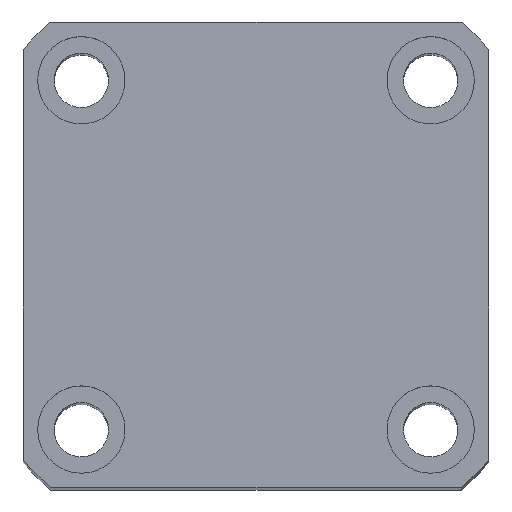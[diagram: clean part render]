
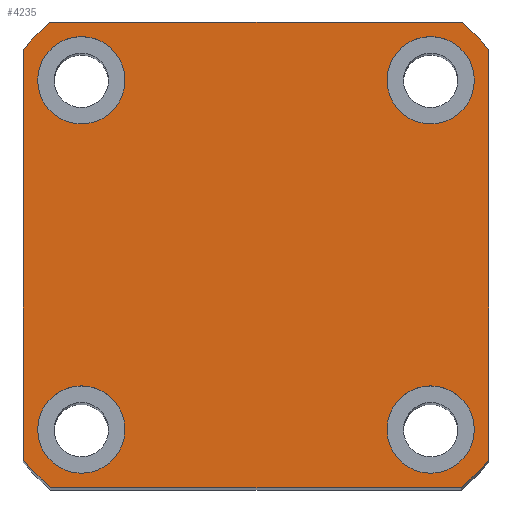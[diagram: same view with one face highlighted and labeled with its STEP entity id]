
A CAD part, top view. The second image highlights one B-rep face of the part: STEP entity #4235.
In plain terms, the highlighted planar face has unit normal (0, 0, 1) as drawn and (1, 0, 0) by its records, which use the part's own axes.
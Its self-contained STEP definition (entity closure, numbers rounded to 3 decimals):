
#13 = VERTEX_POINT ( 'NONE', #486 ) ;
#80 = AXIS2_PLACEMENT_3D ( 'NONE', #7430, #7750, #7776 ) ;
#116 = CARTESIAN_POINT ( 'NONE',  ( 130., 18., -22.5 ) ) ;
#141 = CARTESIAN_POINT ( 'NONE',  ( 130., 0., 0. ) ) ;
#307 = AXIS2_PLACEMENT_3D ( 'NONE', #1710, #6068, #2345 ) ;
#329 = CARTESIAN_POINT ( 'NONE',  ( 130., 21.166, 24. ) ) ;
#394 = VECTOR ( 'NONE', #2709, 1000. ) ;
#486 = CARTESIAN_POINT ( 'NONE',  ( 130., 24., 21.166 ) ) ;
#490 = CARTESIAN_POINT ( 'NONE',  ( 130., -21.166, -24. ) ) ;
#505 = CARTESIAN_POINT ( 'NONE',  ( 130., -18., -22.5 ) ) ;
#529 = VERTEX_POINT ( 'NONE', #116 ) ;
#601 = EDGE_LOOP ( 'NONE', ( #7076, #5218 ) ) ;
#616 = CARTESIAN_POINT ( 'NONE',  ( 130., 24., -21.166 ) ) ;
#813 = VERTEX_POINT ( 'NONE', #616 ) ;
#825 = CARTESIAN_POINT ( 'NONE',  ( 130., 24., 24. ) ) ;
#897 = EDGE_LOOP ( 'NONE', ( #1696, #1113, #2581, #7155, #3446, #4906, #3273, #6379 ) ) ;
#1069 = AXIS2_PLACEMENT_3D ( 'NONE', #1990, #7160, #6852 ) ;
#1113 = ORIENTED_EDGE ( 'NONE', *, *, #5377, .T. ) ;
#1307 = CARTESIAN_POINT ( 'NONE',  ( 130., 0., 0. ) ) ;
#1312 = VERTEX_POINT ( 'NONE', #3762 ) ;
#1334 = DIRECTION ( 'NONE',  ( 1., 0., 0. ) ) ;
#1357 = CIRCLE ( 'NONE', #307, 32. ) ;
#1399 = DIRECTION ( 'NONE',  ( 1., 0., 0. ) ) ;
#1424 = ORIENTED_EDGE ( 'NONE', *, *, #1624, .F. ) ;
#1605 = VERTEX_POINT ( 'NONE', #5624 ) ;
#1624 = EDGE_CURVE ( 'NONE', #3964, #4545, #1638, .T. ) ;
#1638 = CIRCLE ( 'NONE', #1069, 4.5 ) ;
#1696 = ORIENTED_EDGE ( 'NONE', *, *, #6947, .T. ) ;
#1710 = CARTESIAN_POINT ( 'NONE',  ( 130., 0., 0. ) ) ;
#1868 = EDGE_CURVE ( 'NONE', #5022, #529, #2316, .T. ) ;
#1929 = DIRECTION ( 'NONE',  ( 0., 0., -1. ) ) ;
#1990 = CARTESIAN_POINT ( 'NONE',  ( 130., -18., 18. ) ) ;
#2038 = EDGE_CURVE ( 'NONE', #3737, #2979, #6908, .T. ) ;
#2067 = LINE ( 'NONE', #825, #394 ) ;
#2081 = CARTESIAN_POINT ( 'NONE',  ( 130., -18., -13.5 ) ) ;
#2134 = CIRCLE ( 'NONE', #3378, 32. ) ;
#2195 = ORIENTED_EDGE ( 'NONE', *, *, #8023, .F. ) ;
#2316 = CIRCLE ( 'NONE', #5249, 4.5 ) ;
#2345 = DIRECTION ( 'NONE',  ( 0., 0., -1. ) ) ;
#2395 = EDGE_CURVE ( 'NONE', #4545, #3964, #4050, .T. ) ;
#2510 = EDGE_CURVE ( 'NONE', #5951, #4496, #3410, .T. ) ;
#2581 = ORIENTED_EDGE ( 'NONE', *, *, #4004, .T. ) ;
#2587 = CARTESIAN_POINT ( 'NONE',  ( 130., -24., -21.166 ) ) ;
#2621 = DIRECTION ( 'NONE',  ( 1., 0., 0. ) ) ;
#2691 = ORIENTED_EDGE ( 'NONE', *, *, #4550, .F. ) ;
#2709 = DIRECTION ( 'NONE',  ( 0., -1., 0. ) ) ;
#2963 = AXIS2_PLACEMENT_3D ( 'NONE', #6694, #6949, #6919 ) ;
#2979 = VERTEX_POINT ( 'NONE', #4969 ) ;
#3134 = CARTESIAN_POINT ( 'NONE',  ( 130., -24., 21.166 ) ) ;
#3158 = DIRECTION ( 'NONE',  ( 1., 0., 0. ) ) ;
#3192 = AXIS2_PLACEMENT_3D ( 'NONE', #1307, #5663, #1929 ) ;
#3203 = CARTESIAN_POINT ( 'NONE',  ( 130., 0., 0. ) ) ;
#3217 = VECTOR ( 'NONE', #4533, 1000. ) ;
#3273 = ORIENTED_EDGE ( 'NONE', *, *, #4263, .T. ) ;
#3301 = EDGE_CURVE ( 'NONE', #1605, #6587, #4078, .T. ) ;
#3378 = AXIS2_PLACEMENT_3D ( 'NONE', #3203, #7558, #3822 ) ;
#3410 = CIRCLE ( 'NONE', #5506, 4.5 ) ;
#3417 = AXIS2_PLACEMENT_3D ( 'NONE', #5220, #5170, #5115 ) ;
#3445 = DIRECTION ( 'NONE',  ( 0., 0., -1. ) ) ;
#3446 = ORIENTED_EDGE ( 'NONE', *, *, #5952, .T. ) ;
#3469 = DIRECTION ( 'NONE',  ( 1., 0., 0. ) ) ;
#3541 = VERTEX_POINT ( 'NONE', #329 ) ;
#3584 = CARTESIAN_POINT ( 'NONE',  ( 130., 18., 13.5 ) ) ;
#3607 = CARTESIAN_POINT ( 'NONE',  ( 130., -18., -18. ) ) ;
#3726 = CARTESIAN_POINT ( 'NONE',  ( 130., -18., 22.5 ) ) ;
#3737 = VERTEX_POINT ( 'NONE', #3584 ) ;
#3762 = CARTESIAN_POINT ( 'NONE',  ( 130., 21.166, -24. ) ) ;
#3822 = DIRECTION ( 'NONE',  ( 0., 0., -1. ) ) ;
#3888 = CIRCLE ( 'NONE', #5991, 4.5 ) ;
#3896 = CARTESIAN_POINT ( 'NONE',  ( 130., -24., 24. ) ) ;
#3964 = VERTEX_POINT ( 'NONE', #6900 ) ;
#3968 = DIRECTION ( 'NONE',  ( 0., 1., 0. ) ) ;
#4004 = EDGE_CURVE ( 'NONE', #813, #13, #6036, .T. ) ;
#4050 = CIRCLE ( 'NONE', #3417, 4.5 ) ;
#4078 = CIRCLE ( 'NONE', #2963, 32. ) ;
#4235 = ADVANCED_FACE ( 'NONE', ( #4850, #6518, #5256, #5064, #6716 ), #5132, .T. ) ;
#4263 = EDGE_CURVE ( 'NONE', #6587, #6530, #6325, .T. ) ;
#4315 = EDGE_LOOP ( 'NONE', ( #2691, #7255 ) ) ;
#4392 = AXIS2_PLACEMENT_3D ( 'NONE', #5059, #1334, #5683 ) ;
#4444 = DIRECTION ( 'NONE',  ( 0., 0., 1. ) ) ;
#4496 = VERTEX_POINT ( 'NONE', #505 ) ;
#4533 = DIRECTION ( 'NONE',  ( 0., 0., -1. ) ) ;
#4545 = VERTEX_POINT ( 'NONE', #3726 ) ;
#4550 = EDGE_CURVE ( 'NONE', #529, #5022, #3888, .T. ) ;
#4572 = CARTESIAN_POINT ( 'NONE',  ( 130., 24., -24. ) ) ;
#4619 = CIRCLE ( 'NONE', #3192, 32. ) ;
#4646 = AXIS2_PLACEMENT_3D ( 'NONE', #6894, #3158, #7515 ) ;
#4667 = CIRCLE ( 'NONE', #4392, 4.5 ) ;
#4793 = EDGE_LOOP ( 'NONE', ( #2195, #6579 ) ) ;
#4850 = FACE_BOUND ( 'NONE', #4793, .T. ) ;
#4859 = LINE ( 'NONE', #4572, #6333 ) ;
#4906 = ORIENTED_EDGE ( 'NONE', *, *, #3301, .T. ) ;
#4952 = EDGE_CURVE ( 'NONE', #13, #3541, #2134, .T. ) ;
#4969 = CARTESIAN_POINT ( 'NONE',  ( 130., 18., 22.5 ) ) ;
#4991 = DIRECTION ( 'NONE',  ( 0., 0., -1. ) ) ;
#5017 = DIRECTION ( 'NONE',  ( 1., 0., 0. ) ) ;
#5022 = VERTEX_POINT ( 'NONE', #7717 ) ;
#5059 = CARTESIAN_POINT ( 'NONE',  ( 130., 18., 18. ) ) ;
#5064 = FACE_BOUND ( 'NONE', #601, .T. ) ;
#5115 = DIRECTION ( 'NONE',  ( 0., 0., -1. ) ) ;
#5132 = PLANE ( 'NONE',  #6994 ) ;
#5170 = DIRECTION ( 'NONE',  ( 1., 0., 0. ) ) ;
#5218 = ORIENTED_EDGE ( 'NONE', *, *, #7560, .F. ) ;
#5220 = CARTESIAN_POINT ( 'NONE',  ( 130., -18., 18. ) ) ;
#5249 = AXIS2_PLACEMENT_3D ( 'NONE', #5373, #5017, #4991 ) ;
#5256 = FACE_BOUND ( 'NONE', #4315, .T. ) ;
#5373 = CARTESIAN_POINT ( 'NONE',  ( 130., 18., -18. ) ) ;
#5377 = EDGE_CURVE ( 'NONE', #1312, #813, #1357, .T. ) ;
#5506 = AXIS2_PLACEMENT_3D ( 'NONE', #3607, #3469, #3445 ) ;
#5624 = CARTESIAN_POINT ( 'NONE',  ( 130., -21.166, 24. ) ) ;
#5655 = VECTOR ( 'NONE', #4444, 1000. ) ;
#5663 = DIRECTION ( 'NONE',  ( 1., 0., 0. ) ) ;
#5683 = DIRECTION ( 'NONE',  ( 0., 0., -1. ) ) ;
#5753 = DIRECTION ( 'NONE',  ( 0., 0., -1. ) ) ;
#5754 = EDGE_LOOP ( 'NONE', ( #1424, #7835 ) ) ;
#5951 = VERTEX_POINT ( 'NONE', #2081 ) ;
#5952 = EDGE_CURVE ( 'NONE', #3541, #1605, #2067, .T. ) ;
#5991 = AXIS2_PLACEMENT_3D ( 'NONE', #6233, #2621, #6986 ) ;
#6036 = LINE ( 'NONE', #7546, #5655 ) ;
#6068 = DIRECTION ( 'NONE',  ( 1., 0., 0. ) ) ;
#6233 = CARTESIAN_POINT ( 'NONE',  ( 130., 18., -18. ) ) ;
#6325 = LINE ( 'NONE', #3896, #3217 ) ;
#6333 = VECTOR ( 'NONE', #3968, 1000. ) ;
#6379 = ORIENTED_EDGE ( 'NONE', *, *, #6633, .T. ) ;
#6518 = FACE_BOUND ( 'NONE', #5754, .T. ) ;
#6530 = VERTEX_POINT ( 'NONE', #2587 ) ;
#6579 = ORIENTED_EDGE ( 'NONE', *, *, #2510, .F. ) ;
#6587 = VERTEX_POINT ( 'NONE', #3134 ) ;
#6633 = EDGE_CURVE ( 'NONE', #6530, #7900, #4619, .T. ) ;
#6694 = CARTESIAN_POINT ( 'NONE',  ( 130., 0., 0. ) ) ;
#6716 = FACE_OUTER_BOUND ( 'NONE', #897, .T. ) ;
#6852 = DIRECTION ( 'NONE',  ( 0., 0., -1. ) ) ;
#6894 = CARTESIAN_POINT ( 'NONE',  ( 130., -18., -18. ) ) ;
#6900 = CARTESIAN_POINT ( 'NONE',  ( 130., -18., 13.5 ) ) ;
#6908 = CIRCLE ( 'NONE', #80, 4.5 ) ;
#6919 = DIRECTION ( 'NONE',  ( 0., 0., -1. ) ) ;
#6947 = EDGE_CURVE ( 'NONE', #7900, #1312, #4859, .T. ) ;
#6949 = DIRECTION ( 'NONE',  ( 1., 0., 0. ) ) ;
#6969 = CIRCLE ( 'NONE', #4646, 4.5 ) ;
#6986 = DIRECTION ( 'NONE',  ( 0., 0., -1. ) ) ;
#6994 = AXIS2_PLACEMENT_3D ( 'NONE', #141, #1399, #5753 ) ;
#7076 = ORIENTED_EDGE ( 'NONE', *, *, #2038, .F. ) ;
#7155 = ORIENTED_EDGE ( 'NONE', *, *, #4952, .T. ) ;
#7160 = DIRECTION ( 'NONE',  ( 1., 0., 0. ) ) ;
#7255 = ORIENTED_EDGE ( 'NONE', *, *, #1868, .F. ) ;
#7430 = CARTESIAN_POINT ( 'NONE',  ( 130., 18., 18. ) ) ;
#7515 = DIRECTION ( 'NONE',  ( 0., 0., -1. ) ) ;
#7546 = CARTESIAN_POINT ( 'NONE',  ( 130., 24., 24. ) ) ;
#7558 = DIRECTION ( 'NONE',  ( 1., 0., 0. ) ) ;
#7560 = EDGE_CURVE ( 'NONE', #2979, #3737, #4667, .T. ) ;
#7717 = CARTESIAN_POINT ( 'NONE',  ( 130., 18., -13.5 ) ) ;
#7750 = DIRECTION ( 'NONE',  ( 1., 0., 0. ) ) ;
#7776 = DIRECTION ( 'NONE',  ( 0., 0., -1. ) ) ;
#7835 = ORIENTED_EDGE ( 'NONE', *, *, #2395, .F. ) ;
#7900 = VERTEX_POINT ( 'NONE', #490 ) ;
#8023 = EDGE_CURVE ( 'NONE', #4496, #5951, #6969, .T. ) ;
